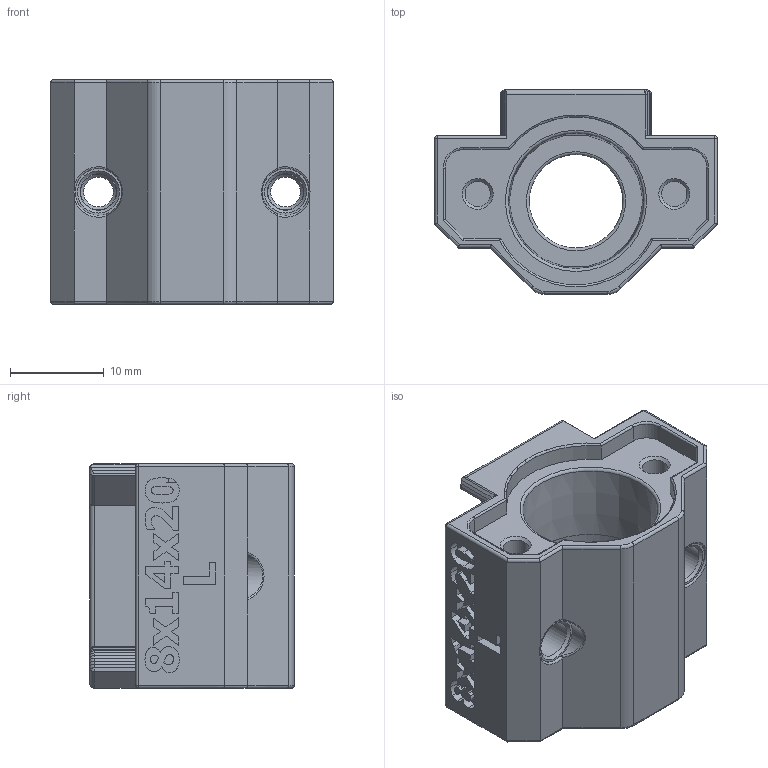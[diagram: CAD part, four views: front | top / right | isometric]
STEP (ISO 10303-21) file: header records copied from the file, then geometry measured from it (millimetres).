
FILE_DESCRIPTION(/* description */ ('FreeCAD Model'),/* implementation_level */ '2;1');
FILE_NAME(/* name */ '\\7800MBZ-PC\Maschinenbau-Projekte\Prusa_MK3_CAD\Linearlager\Linearlager-Sinterbuchsen-MK3-Y-Achse\Export_Step\Caspar_Sinterbuchsen_8x14x20_MK3\PrusaMods_Y-Axis_Bearing_Holder_RJ4JP_+0.20_Loslager.stp',/* time_stamp */ '2023-04-10T17:43:45+02:00',/* author */ ('KHG'),/* organization */ (''),/* preprocessor_version */ 'ST-DEVELOPER v18.1',/* originating_system */ 'Autodesk Inventor 2020',/* authorisation */ 'Unknown');
FILE_SCHEMA (('AUTOMOTIVE_DESIGN { 1 0 10303 214 3 1 1 }'));
Length unit declared in the file: millimetre
Products named in the file (1): PrusaMods_Y-Axis_Bearing_Holder_RJ4JP_+0.20_Loslager
Bounding box: 30.2 x 21.86 x 24 mm (x, y, z)
Volume: 6942 mm3; surface area: 4794.8 mm2
Topology: 1 solids, 1 shells, 427 faces, 1102 edges, 707 vertices
Faces by surface type: plane 220, bspline 94, cylinder 86, torus 13, cone 10, sphere 4
Full cylindrical faces by diameter (mm): 2.7 x2, 3.2 x2, 3.9 x2, 5 x2, 10 x1
Entity records: 13744 total; most frequent: CARTESIAN_POINT 3832, ORIENTED_EDGE 2204, DIRECTION 1736, EDGE_CURVE 1102, LINE 736, VECTOR 736, VERTEX_POINT 707, AXIS2_PLACEMENT_3D 500
